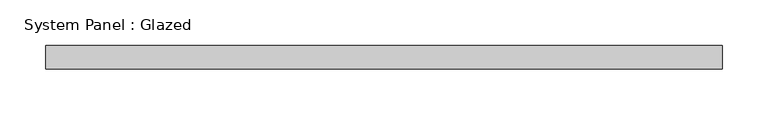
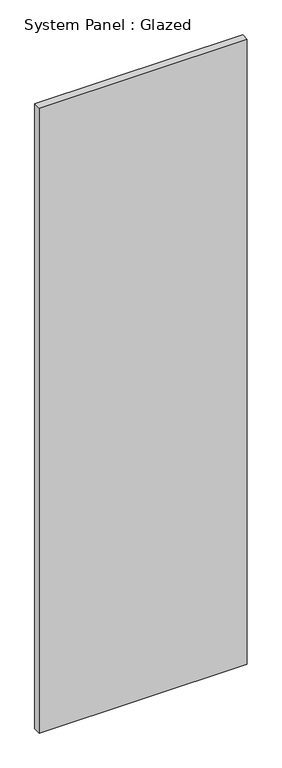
"""IFC4 building model written with IfcOpenShell, lengths in millimetres: plate geometry, System Panel : Glazed."""

from ifc_helpers import new_model, si_unit, origin, origin_with_axes, place, context, project, spatial, polyline, outline, extrude, source, transform, mapped, element, save


def system_panel_glazed_8093bbd9(model_context):
    return source(origin(), model_context, "Body", "SweptSolid", [
        extrude(outline(polyline([(369.57, -44.45), (-369.57, -44.45), (-369.57, -19.05), (369.57, -19.05), (369.57, -44.45)])), origin_with_axes(), (0.0, 0.0, 1.0), 2343.15),
    ])


if __name__ == "__main__":
    model = new_model("IFC4")
    model_context = context("Model", 3, world=origin())
    ifc_project = project(units=[si_unit("LENGTHUNIT", "METRE", prefix="MILLI")], contexts=[model_context])
    site = spatial("IfcSite", under=ifc_project)
    building = spatial("IfcBuilding", under=site)
    placement = place(None, origin())
    system_panel_glazed_shape = system_panel_glazed_8093bbd9(model_context)
    element("IfcPlate", 1, ObjectType="System Panel : Glazed", at=placement, inside=building, context=model_context, shape_type="MappedRepresentation", body=[
        mapped(system_panel_glazed_shape, transform((0.0, 0.0, 0.0), x_axis=(1.0, 0.0, 0.0), y_axis=(0.0, 1.0, 0.0), z_axis=(0.0, 0.0, 1.0))),
    ])
    save(model, "model.ifc")
